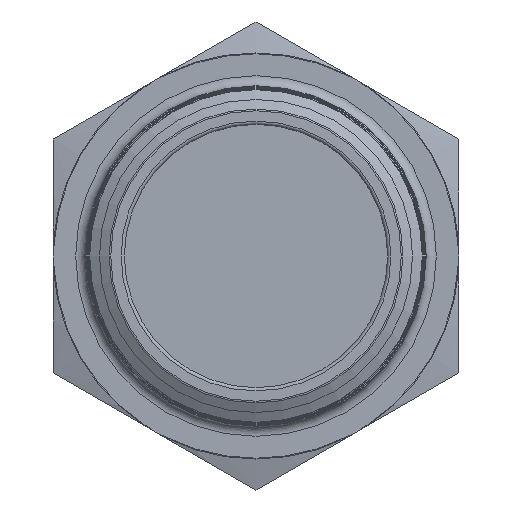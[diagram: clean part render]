
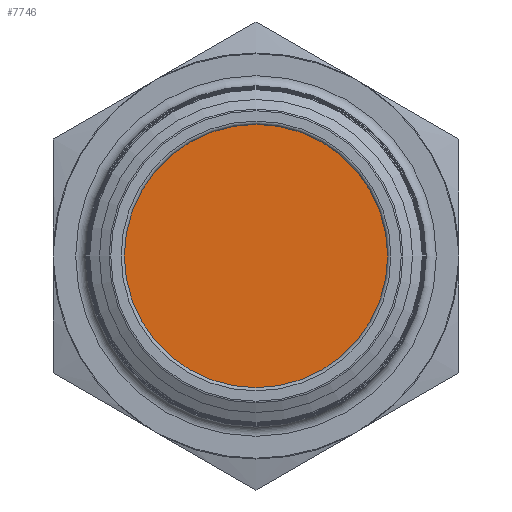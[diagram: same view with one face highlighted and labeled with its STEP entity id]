
A CAD part, left-side view. The second image highlights one B-rep face of the part: STEP entity #7746.
In plain terms, the highlighted planar face has unit normal (-1, 0, 0).
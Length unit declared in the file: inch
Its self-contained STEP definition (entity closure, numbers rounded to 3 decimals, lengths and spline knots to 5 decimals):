
#1303=PLANE('',#8189);
#2750=ORIENTED_EDGE('',*,*,#2769,.T.);
#2769=EDGE_CURVE('',#3499,#3499,#4003,.F.);
#3499=VERTEX_POINT('',#9476);
#4003=CIRCLE('',#7763,0.406);
#4568=EDGE_LOOP('',(#2750));
#5016=FACE_BOUND('',#4568,.T.);
#7746=ADVANCED_FACE('',(#5016),#1303,.F.);
#7763=AXIS2_PLACEMENT_3D('',#9475,#8213,#8214);
#8189=AXIS2_PLACEMENT_3D('',#11872,#9435,#9436);
#8213=DIRECTION('',(1.,0.,0.));
#8214=DIRECTION('',(0.,0.,-1.));
#9435=DIRECTION('',(1.,0.,0.));
#9436=DIRECTION('',(0.,0.,-1.));
#9475=CARTESIAN_POINT('',(0.31832,0.,0.));
#9476=CARTESIAN_POINT('',(0.31832,0.,-0.406));
#11872=CARTESIAN_POINT('',(0.31832,0.,0.));
